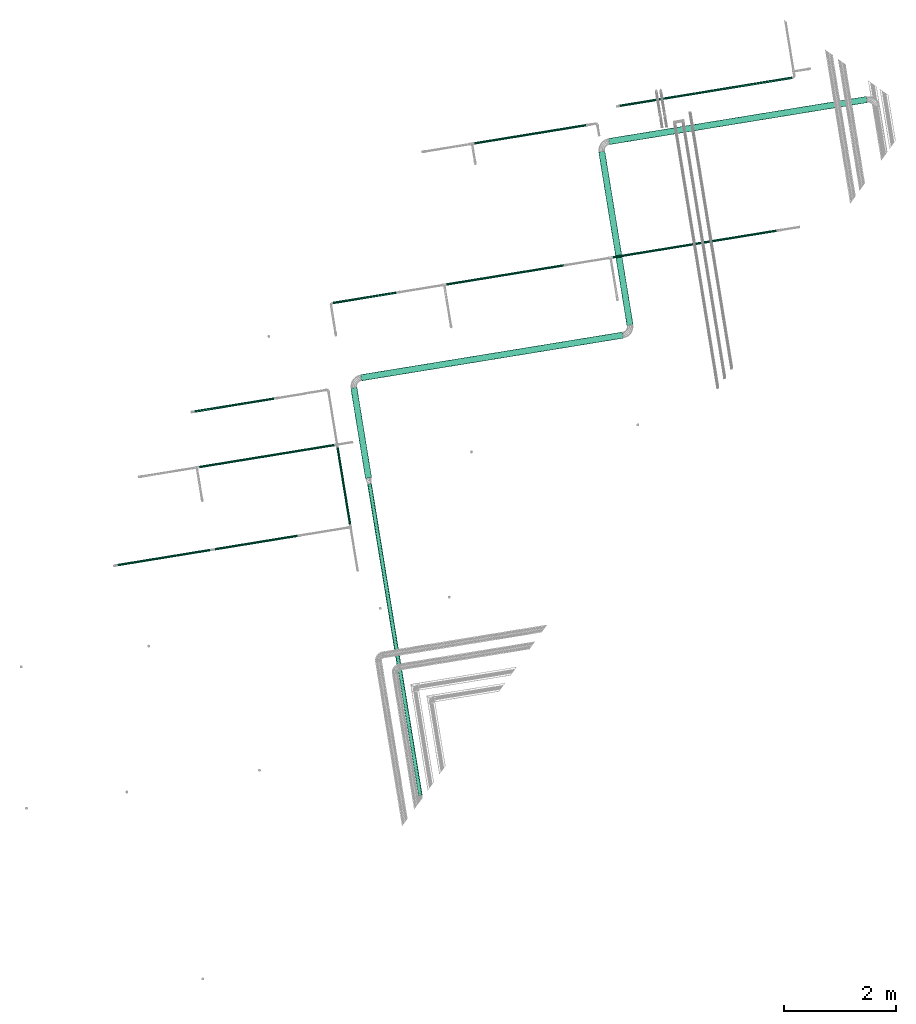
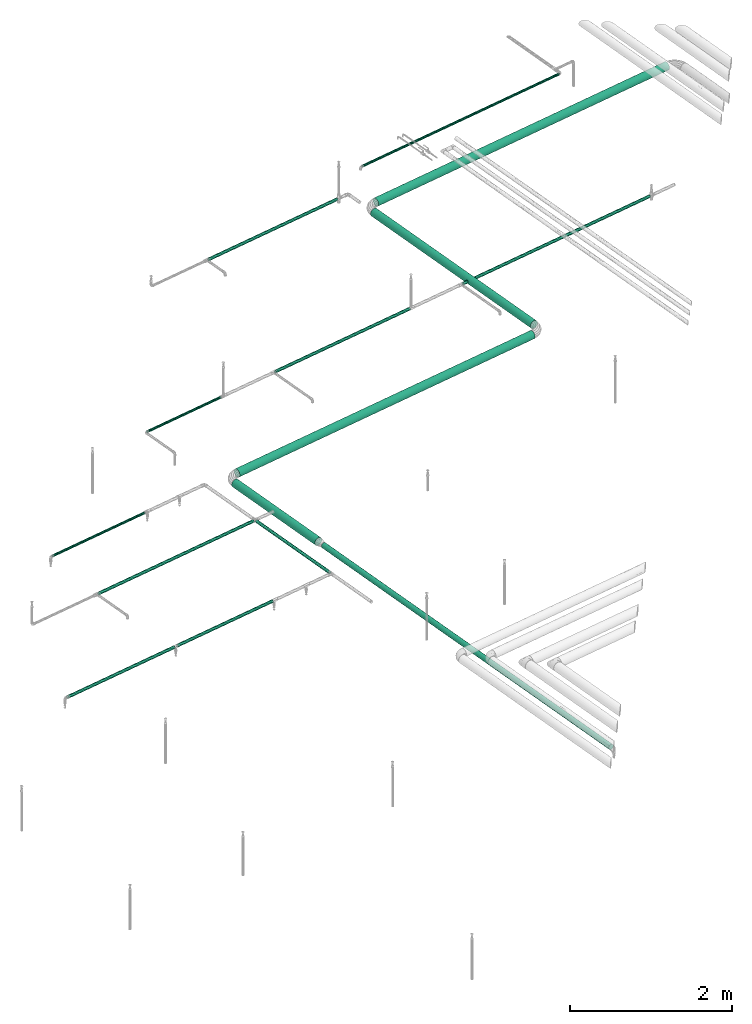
# One storey, part 17 of 46: 15 flow segments.
"""IFC2X3 building model written with IfcOpenShell, lengths in millimetres."""

import ifcopenshell
import ifcopenshell.guid

model = None  # the IFC model being written
_history = None  # IfcOwnerHistory: only IFC2X3 demands one
_inside = {}  # id of a spatial element -> (the spatial element, [elements in it])
_under = {}  # id of a project, library or spatial element -> (it, [spatial elements below it])
_declared = {}  # id of a project -> (the project, [libraries it declares])
_typed = {}  # id of a type object -> (the type object, [elements of that type])
_made_of = {}  # id of a material, layer set ... -> (it, [elements and type objects made of it])


def new_model(schema):
    """Start an empty IFC model of exactly this schema.

    Asked for "IFC4X3", IfcOpenShell would pick the latest addendum, in which some entities
    have other attributes; the version numbers below select the first issue.
    IFC2X3 requires an IfcOwnerHistory on every rooted entity: one is made here for all.
    """
    global model, _history
    if schema == "IFC4X3":
        model = ifcopenshell.file(schema_version=(4, 3, 0, 0))
    else:
        model = ifcopenshell.file(schema=schema)
    _inside.clear()
    _under.clear()
    _declared.clear()
    _typed.clear()
    _made_of.clear()
    _history = None
    if model.schema == "IFC2X3":
        org = make("IfcOrganization", Name="unknown")
        user = make(
            "IfcPersonAndOrganization",
            ThePerson=make("IfcPerson", FamilyName="unknown"),
            TheOrganization=org,
        )
        app = make(
            "IfcApplication",
            ApplicationDeveloper=org,
            Version="unknown",
            ApplicationFullName="unknown",
            ApplicationIdentifier="unknown",
        )
        _history = make(
            "IfcOwnerHistory",
            OwningUser=user,
            OwningApplication=app,
            ChangeAction="ADDED",
            CreationDate=0,
        )
    return model


def make(cls, **values):
    """One entity of the class cls with the attributes given. An attribute that is None is left unset."""
    return model.create_entity(
        cls, **{name: value for name, value in values.items() if value is not None}
    )


def entity(cls, *values):
    """Any entity or typed value of the class cls, its attributes in the order of the schema. None: left unset."""
    e = model.create_entity(cls)
    for i, value in enumerate(values):
        if value is not None:
            e[i] = value
    return e


def rooted(cls, **values):
    """An entity with a GlobalId (a new one), such as an element, a storey or a relation."""
    return make(cls, GlobalId=ifcopenshell.guid.new(), OwnerHistory=_history, **values)


def si_unit(unit_type, name, prefix=None):
    """IfcSIUnit, for example si_unit("LENGTHUNIT", "METRE", prefix="MILLI")."""
    return make("IfcSIUnit", UnitType=unit_type, Prefix=prefix, Name=name)


def converted_unit(unit_type, name, factor, base, dimensions=None, offset=None):
    """IfcConversionBasedUnit, such as the inch: factor (a typed value) times the base unit."""
    return make(
        "IfcConversionBasedUnit"
        if offset is None
        else "IfcConversionBasedUnitWithOffset",
        ConversionOffset=offset,
        Dimensions=None
        if dimensions is None
        else entity("IfcDimensionalExponents", *dimensions),
        UnitType=unit_type,
        Name=name,
        ConversionFactor=make(
            "IfcMeasureWithUnit", ValueComponent=factor, UnitComponent=base
        ),
    )


def derived_unit(unit_type, elements):
    """IfcDerivedUnit: a product of units, each with its exponent."""
    return make(
        "IfcDerivedUnit",
        Elements=[
            make("IfcDerivedUnitElement", Unit=unit, Exponent=power)
            for unit, power in elements
        ],
        UnitType=unit_type,
    )


def assignment(units):
    """IfcUnitAssignment: the units of a project."""
    return None if units is None else make("IfcUnitAssignment", Units=units)


def point(xyz):
    """IfcCartesianPoint."""
    return None if xyz is None else make("IfcCartesianPoint", Coordinates=xyz)


def direction(xyz):
    """IfcDirection."""
    return None if xyz is None else make("IfcDirection", DirectionRatios=xyz)


def frame(location, z_axis=None, x_axis=None):
    """IfcAxis2Placement3D, a coordinate frame: its origin and axes. An axis left out is left unset."""
    return make(
        "IfcAxis2Placement3D",
        Location=point(location),
        Axis=direction(z_axis),
        RefDirection=direction(x_axis),
    )


def frame_2d(location, x_axis=None):
    """IfcAxis2Placement2D, a coordinate frame in the plane: its origin and x axis."""
    return make(
        "IfcAxis2Placement2D", Location=point(location), RefDirection=direction(x_axis)
    )


def origin():
    """The frame at (0, 0, 0) with its axes left unset."""
    return frame((0.0, 0.0, 0.0))


def origin_with_axes():
    """The frame at (0, 0, 0) with the z axis (0, 0, 1) and the x axis (1, 0, 0) written out."""
    return frame((0.0, 0.0, 0.0), z_axis=(0.0, 0.0, 1.0), x_axis=(1.0, 0.0, 0.0))


def origin_2d_with_axis():
    """The frame at (0, 0) in the plane with the x axis (1, 0) written out."""
    return frame_2d((0.0, 0.0), x_axis=(1.0, 0.0))


def place(relative_to, where):
    """IfcLocalPlacement: puts the frame where relative to a parent placement (None: the world)."""
    return make(
        "IfcLocalPlacement", PlacementRelTo=relative_to, RelativePlacement=where
    )


def context(
    kind, dimensions, precision=None, world=None, true_north=None, identifier=None
):
    """IfcGeometricRepresentationContext, for example the 3D "Model" context."""
    return make(
        "IfcGeometricRepresentationContext",
        ContextIdentifier=identifier,
        ContextType=kind,
        CoordinateSpaceDimension=dimensions,
        Precision=precision,
        WorldCoordinateSystem=world,
        TrueNorth=true_north,
    )


def subcontext(parent, identifier, kind, view, scale=None):
    """IfcGeometricRepresentationSubContext, for example "Body" below "Model"."""
    return make(
        "IfcGeometricRepresentationSubContext",
        ContextIdentifier=identifier,
        ContextType=kind,
        ParentContext=parent,
        TargetScale=scale,
        TargetView=view,
    )


def project(units=None, contexts=None):
    """IfcProject with its units and contexts."""
    return rooted(
        "IfcProject",
        Name="project",
        RepresentationContexts=contexts,
        UnitsInContext=assignment(units),
    )


def spatial(cls, under=None, at=None, **own):
    """A site, building, storey or space (cls), placed at a placement, below another one or the project."""
    s = rooted(cls, ObjectPlacement=at, **own)
    if under is not None:
        _under.setdefault(under.id(), (under, []))[1].append(s)
    return s


def profile(cls, at=None, kind="AREA", **sizes):
    """A parametric profile (cls). Its sizes go by their IFC names, for example OverallWidth=200.0."""
    return make(cls, ProfileType=kind, Position=at, **sizes)


def circle(**sizes):
    """IfcCircleProfileDef."""
    return profile("IfcCircleProfileDef", **sizes)


def extrude(swept, where, along, depth):
    """IfcExtrudedAreaSolid: the profile swept, set in the frame where, extruded along a direction by depth."""
    return make(
        "IfcExtrudedAreaSolid",
        SweptArea=swept,
        Position=where,
        ExtrudedDirection=direction(along),
        Depth=depth,
    )


def shape(context_of_items, identifier, shape_type, items):
    """IfcShapeRepresentation: the items that make up one representation, for example the "Body"."""
    return make(
        "IfcShapeRepresentation",
        ContextOfItems=context_of_items,
        RepresentationIdentifier=identifier,
        RepresentationType=shape_type,
        Items=items,
    )


def material(Name=None, Category=None):
    """IfcMaterial."""
    return make("IfcMaterial", Name=Name, Category=Category)


def made_of(thing, what):
    """Note that an element or type object is made of a material, layer set ...; save() writes the relation."""
    if what is not None:
        _made_of.setdefault(what.id(), (what, []))[1].append(thing)
    return thing


def type_object(cls, material=None, **own):
    """A type object (cls), such as IfcWallType, which elements share."""
    return made_of(rooted(cls, **own), material)


def element(
    cls,
    number,
    at=None,
    inside=None,
    cuts=None,
    type_object=None,
    material=None,
    context=None,
    identifier="Body",
    shape_type=None,
    held_by="IfcProductDefinitionShape",
    body=None,
    shapes=None,
    **own,
):
    """One element of the class cls, such as IfcWall. Its Tag is "e" and its number.

    at: its placement. inside: the storey or other place that contains it. cuts: it is an
    opening in that element (IfcRelVoidsElement). A single representation is given by context,
    identifier, shape_type and body (its items); several are given by shapes. held_by: the class
    of the entity that holds the representations. save() writes the other relations.
    """
    e = rooted(cls, Tag="e%d" % number, ObjectPlacement=at, **own)
    if body is not None:
        shapes = [shape(context, identifier, shape_type, body)]
    if shapes is not None:
        e.Representation = make(held_by, Representations=shapes)
    if inside is not None:
        _inside.setdefault(inside.id(), (inside, []))[1].append(e)
    if cuts is not None:
        rooted(
            "IfcRelVoidsElement", RelatingBuildingElement=cuts, RelatedOpeningElement=e
        )
    if type_object is not None:
        _typed.setdefault(type_object.id(), (type_object, []))[1].append(e)
    return made_of(e, material)


def aggregate(whole, parts):
    """IfcRelAggregates: a whole, such as a stair, and the parts it consists of."""
    return rooted("IfcRelAggregates", RelatingObject=whole, RelatedObjects=parts)


def save(model, path):
    """Write the relations noted so far, then the file.

    IfcRelAggregates (storeys below a building ...), IfcRelContainedInSpatialStructure (elements
    in a storey), IfcRelDefinesByType, IfcRelAssociatesMaterial and IfcRelDeclares: one each for
    every whole, place, type object, material and project.
    """
    for whole, parts in _under.values():
        aggregate(whole, parts)
    for where, things in _inside.values():
        rooted(
            "IfcRelContainedInSpatialStructure",
            RelatedElements=things,
            RelatingStructure=where,
        )
    for kind, things in _typed.values():
        rooted("IfcRelDefinesByType", RelatedObjects=things, RelatingType=kind)
    for what, things in _made_of.values():
        rooted("IfcRelAssociatesMaterial", RelatedObjects=things, RelatingMaterial=what)
    for by, libraries in _declared.values():
        rooted("IfcRelDeclares", RelatingContext=by, RelatedDefinitions=libraries)
    model.write(path)


model = new_model("IFC2X3")

# Units and contexts
model_context = context("Model", 3, precision=0.01, world=origin(), true_north=direction((6.12323399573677e-17, 1.0)))
plan_context = context("Plan", 3, precision=1e-05, world=origin_with_axes())
body_context = subcontext(model_context, "Body", "Model", "MODEL_VIEW")
ifc_project = project(units=[converted_unit("PLANEANGLEUNIT", "DEGREE", entity("IfcPositiveLengthMeasure", 0.0174532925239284), si_unit("PLANEANGLEUNIT", "RADIAN"), dimensions=[0, 0, 0, 0, 0, 0, 0]), si_unit("AREAUNIT", "SQUARE_METRE"), si_unit("LENGTHUNIT", "METRE", prefix="MILLI"), si_unit("MASSUNIT", "GRAM", prefix="KILO"), si_unit("POWERUNIT", "WATT"), si_unit("PRESSUREUNIT", "PASCAL", prefix="KILO"), si_unit("FORCEUNIT", "NEWTON", prefix="KILO"), si_unit("ELECTRICVOLTAGEUNIT", "VOLT"), si_unit("ELECTRICCURRENTUNIT", "AMPERE"), si_unit("THERMODYNAMICTEMPERATUREUNIT", "DEGREE_CELSIUS"), si_unit("TIMEUNIT", "SECOND"), si_unit("VOLUMEUNIT", "CUBIC_METRE"), derived_unit("LINEARVELOCITYUNIT", [(si_unit("LENGTHUNIT", "METRE"), 1), (si_unit("TIMEUNIT", "SECOND"), -1)]), derived_unit("VOLUMETRICFLOWRATEUNIT", [(si_unit("VOLUMEUNIT", "CUBIC_METRE"), 1), (si_unit("TIMEUNIT", "SECOND"), -1)]), derived_unit("THERMALTRANSMITTANCEUNIT", [(si_unit("POWERUNIT", "WATT"), 1), (si_unit("THERMODYNAMICTEMPERATUREUNIT", "KELVIN"), -1), (si_unit("AREAUNIT", "SQUARE_METRE"), -1)]), derived_unit("SOUNDPRESSUREUNIT", [(si_unit("PRESSUREUNIT", "PASCAL"), 1)])], contexts=[model_context, plan_context])

# Site, building, storey
site_placement = place(None, frame((-3.09682673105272e-06, 1.93776733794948e-05, 0.0), z_axis=(0.0, 0.0, 1.0), x_axis=(-0.160806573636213, 0.986985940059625, 0.0)))
site = spatial("IfcSite", under=ifc_project, at=site_placement, Name="Default", CompositionType="ELEMENT")
building_placement = place(site_placement, frame((0.0, 0.0, 0.0), z_axis=(0.0, 0.0, 1.0), x_axis=(1.0, -2.77555756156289e-17, 0.0)))
building = spatial("IfcBuilding", under=site, at=building_placement, Name="Bygning (endres i Project Information)", CompositionType="ELEMENT")
storey_placement = place(building_placement, frame((0.0, 0.0, 51360.0000000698), z_axis=(0.0, 0.0, 1.0), x_axis=(1.0, -2.77555756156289e-17, 0.0)))
storey = spatial("IfcBuildingStorey", under=building, at=storey_placement, Name="H01-Nivå D+0,36", CompositionType="ELEMENT", Elevation=51360.0000000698)

# Flow segments
ifc_material = material(Name="3320.001")
pipe_segment_type = type_object("IfcPipeSegmentType", Name="Pipe Types:Stålrør sveist og gjenget", PredefinedType="NOTDEFINED", material=ifc_material)
flow_segment_1_placement = place(storey_placement, frame((0.0, 0.0, 0.0), z_axis=(0.0, 0.0, 1.0), x_axis=(1.0, -2.77555756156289e-17, 0.0)))
element("IfcFlowSegment", 1, at=flow_segment_1_placement, inside=storey, type_object=pipe_segment_type, Name="Pipe Types:Stålrør sveist og gjenget", ObjectType="Pipe Types:Stålrør sveist og gjenget", context=body_context, shape_type="SweptSolid", body=[
    extrude(circle(Radius=57.1500016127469, at=origin_2d_with_axis()), frame((1008333.45605167, -356932.211474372, 3299.95000040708), z_axis=(0.0, 1.0, 0.0), x_axis=(1.0, 0.0, 0.0)), (0.0, 0.0, 1.0), 4649.99999999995),
])
flow_segment_2_placement = place(storey_placement, frame((0.0, 0.0, 0.0), z_axis=(0.0, 0.0, 1.0), x_axis=(1.0, -2.77555756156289e-17, 0.0)))
element("IfcFlowSegment", 2, at=flow_segment_2_placement, inside=storey, type_object=pipe_segment_type, Name="Pipe Types:Stålrør sveist og gjenget", ObjectType="Pipe Types:Stålrør sveist og gjenget", context=body_context, shape_type="SweptSolid", body=[
    extrude(circle(Radius=57.1500016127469, at=origin_2d_with_axis()), frame((1005048.45605167, -352127.211474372, 3299.95000040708), z_axis=(1.0, 0.0, 0.0), x_axis=(0.0, 1.0, 0.0)), (0.0, 0.0, 1.0), 3130.00000000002),
])
flow_segment_3_placement = place(storey_placement, frame((0.0, 0.0, 0.0), z_axis=(0.0, 0.0, 1.0), x_axis=(1.0, -2.77555756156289e-17, 0.0)))
element("IfcFlowSegment", 3, at=flow_segment_3_placement, inside=storey, type_object=pipe_segment_type, Name="Pipe Types:Stålrør sveist og gjenget", ObjectType="Pipe Types:Stålrør sveist og gjenget", context=body_context, shape_type="SweptSolid", body=[
    extrude(circle(Radius=57.1500016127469, at=origin_2d_with_axis()), frame((1004893.45605167, -351972.211474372, 3299.95000040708), z_axis=(0.0, 1.0, 0.0), x_axis=(1.0, 0.0, 0.0)), (0.0, 0.0, 1.0), 4720.62745549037),
])
flow_segment_4_placement = place(storey_placement, frame((0.0, 0.0, 0.0), z_axis=(0.0, 0.0, 1.0), x_axis=(1.0, -2.77555756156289e-17, 0.0)))
element("IfcFlowSegment", 4, at=flow_segment_4_placement, inside=storey, type_object=pipe_segment_type, Name="Pipe Types:Stålrør sveist og gjenget", ObjectType="Pipe Types:Stålrør sveist og gjenget", context=body_context, shape_type="SweptSolid", body=[
    extrude(circle(Radius=57.1500016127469, at=origin_2d_with_axis()), frame((1003112.00225329, -347096.584018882, 3299.95000040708), z_axis=(1.0, 0.0, 0.0), x_axis=(0.0, 1.0, 0.0)), (0.0, 0.0, 1.0), 1626.45379838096),
])
flow_segment_5_placement = place(storey_placement, frame((0.0, 0.0, 0.0), z_axis=(0.0, 0.0, 1.0), x_axis=(1.0, -2.77555756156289e-17, 0.0)))
element("IfcFlowSegment", 5, at=flow_segment_5_placement, inside=storey, type_object=pipe_segment_type, Name="Pipe Types:Stålrør sveist og gjenget", ObjectType="Pipe Types:Stålrør sveist og gjenget", context=body_context, shape_type="SweptSolid", body=[
    extrude(circle(Radius=16.8500004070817, at=frame_2d((0.0, -8.66293703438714e-12), x_axis=(1.0, 0.0))), frame((1008930.46730193, -355704.297207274, 3400.0), z_axis=(0.0, 1.0, 0.0), x_axis=(1.0, 0.0, 0.0)), (0.0, 0.0, 1.0), 3153.28168063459),
])
flow_segment_6_placement = place(storey_placement, frame((0.0, 0.0, 0.0), z_axis=(0.0, 0.0, 1.0), x_axis=(1.0, -2.77555756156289e-17, 0.0)))
element("IfcFlowSegment", 6, at=flow_segment_6_placement, inside=storey, type_object=pipe_segment_type, Name="Pipe Types:Stålrør sveist og gjenget", ObjectType="Pipe Types:Stålrør sveist og gjenget", context=body_context, shape_type="SweptSolid", body=[
    extrude(circle(Radius=21.2000007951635, at=origin_2d_with_axis()), frame((1008686.77221849, -351949.031006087, 3300.00269175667), z_axis=(0.0, 1.0, 0.0), x_axis=(1.0, 0.0, 0.0)), (0.0, 0.0, 1.0), 2055.10344273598),
])
flow_segment_7_placement = place(storey_placement, frame((0.0, 0.0, 0.0), z_axis=(0.0, 0.0, 1.0), x_axis=(1.0, -2.77555756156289e-17, 0.0)))
element("IfcFlowSegment", 7, at=flow_segment_7_placement, inside=storey, type_object=pipe_segment_type, Name="Pipe Types:Stålrør sveist og gjenget", ObjectType="Pipe Types:Stålrør sveist og gjenget", context=body_context, shape_type="SweptSolid", body=[
    extrude(circle(Radius=21.2000007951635, at=frame_2d((1.38606992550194e-10, 8.6629370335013e-12), x_axis=(1.0, 0.0))), frame((1006288.36764383, -354987.729195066, 3300.0), z_axis=(0.0, 1.0, -1.43007768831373e-05), x_axis=(1.0, 0.0, 0.0)), (0.0, 0.0, 1.0), 2986.49818928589),
])
flow_segment_8_placement = place(storey_placement, frame((0.0, 0.0, 0.0), z_axis=(0.0, 0.0, 1.0), x_axis=(1.0, -2.77555756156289e-17, 0.0)))
element("IfcFlowSegment", 8, at=flow_segment_8_placement, inside=storey, type_object=pipe_segment_type, Name="Pipe Types:Stålrør sveist og gjenget", ObjectType="Pipe Types:Stålrør sveist og gjenget", context=body_context, shape_type="SweptSolid", body=[
    extrude(circle(Radius=16.8500004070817, at=origin_2d_with_axis()), frame((1006288.36764382, -348132.443486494, 3299.95076263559), z_axis=(0.0, 1.0, 0.0), x_axis=(1.0, 0.0, 0.0)), (0.0, 0.0, 1.0), 1179.84804885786),
])
flow_segment_9_placement = place(storey_placement, frame((0.0, 0.0, 0.0), z_axis=(0.0, 0.0, 1.0), x_axis=(1.0, -2.77555756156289e-17, 0.0)))
element("IfcFlowSegment", 9, at=flow_segment_9_placement, inside=storey, type_object=pipe_segment_type, Name="Pipe Types:Stålrør sveist og gjenget", ObjectType="Pipe Types:Stålrør sveist og gjenget", context=body_context, shape_type="SweptSolid", body=[
    extrude(circle(Radius=21.2000007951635, at=origin_2d_with_axis()), frame((1006288.36764382, -351151.110240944, 3299.95459111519), z_axis=(0.0, 1.0, 0.0), x_axis=(1.0, 0.0, 0.0)), (0.0, 0.0, 1.0), 2149.87923485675),
])
flow_segment_10_placement = place(storey_placement, frame((0.0, 0.0, 0.0), z_axis=(0.0, 0.0, 1.0), x_axis=(1.0, -2.77555756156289e-17, 0.0)))
element("IfcFlowSegment", 10, at=flow_segment_10_placement, inside=storey, type_object=pipe_segment_type, Name="Pipe Types:Stålrør sveist og gjenget", ObjectType="Pipe Types:Stålrør sveist og gjenget", context=body_context, shape_type="SweptSolid", body=[
    extrude(circle(Radius=21.2000007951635, at=origin_2d_with_axis()), frame((1002299.88520526, -344129.432953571, 3458.7975447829), z_axis=(0.0, 1.0, 0.0), x_axis=(-1.0, 0.0, 0.0)), (0.0, 0.0, 1.0), 1705.80336909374),
])
flow_segment_11_placement = place(storey_placement, frame((0.0, 0.0, 0.0), z_axis=(0.0, 0.0, 1.0), x_axis=(1.0, -2.77555756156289e-17, 0.0)))
element("IfcFlowSegment", 11, at=flow_segment_11_placement, inside=storey, type_object=pipe_segment_type, Name="Pipe Types:Stålrør sveist og gjenget", ObjectType="Pipe Types:Stålrør sveist og gjenget", context=body_context, shape_type="SweptSolid", body=[
    extrude(circle(Radius=21.2000007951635, at=origin_2d_with_axis()), frame((1002299.88520526, -345701.975122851, 3458.8000262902), z_axis=(0.0, 1.0, 0.0), x_axis=(-1.0, 0.0, 0.0)), (0.0, 0.0, 1.0), 1527.34216928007),
])
flow_segment_12_placement = place(storey_placement, frame((0.0, 0.0, 0.0), z_axis=(0.0, 0.0, 1.0), x_axis=(1.0, -2.77555756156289e-17, 0.0)))
element("IfcFlowSegment", 12, at=flow_segment_12_placement, inside=storey, type_object=pipe_segment_type, Name="Pipe Types:Stålrør sveist og gjenget", ObjectType="Pipe Types:Stålrør sveist og gjenget", context=body_context, shape_type="SweptSolid", body=[
    extrude(circle(Radius=16.8500004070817, at=frame_2d((0.0, -8.66293703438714e-12), x_axis=(1.0, 0.0))), frame((1004777.14983251, -345683.308456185, 3458.79999529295), z_axis=(0.0, 1.0, 0.0), x_axis=(-1.0, 0.0, 0.0)), (0.0, 0.0, 1.0), 1481.34258337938),
])
flow_segment_13_placement = place(storey_placement, frame((0.0, 0.0, 0.0), z_axis=(0.0, 0.0, 1.0), x_axis=(1.0, -2.77555756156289e-17, 0.0)))
element("IfcFlowSegment", 13, at=flow_segment_13_placement, inside=storey, type_object=pipe_segment_type, Name="Pipe Types:Stålrør sveist og gjenget", ObjectType="Pipe Types:Stålrør sveist og gjenget", context=body_context, shape_type="SweptSolid", body=[
    extrude(circle(Radius=21.2000007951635, at=origin_2d_with_axis()), frame((1002329.48520526, -346638.795665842, 3458.79999913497), z_axis=(1.0, 0.0, 0.0), x_axis=(0.0, -1.0, 0.0)), (0.0, 0.0, 1.0), 1429.28243857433),
])
flow_segment_14_placement = place(storey_placement, frame((0.0, 0.0, 0.0), z_axis=(0.0, 0.0, 1.0), x_axis=(1.0, -2.77555756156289e-17, 0.0)))
element("IfcFlowSegment", 14, at=flow_segment_14_placement, inside=storey, type_object=pipe_segment_type, Name="Pipe Types:Stålrør sveist og gjenget", ObjectType="Pipe Types:Stålrør sveist og gjenget", context=body_context, shape_type="SweptSolid", body=[
    extrude(circle(Radius=21.2000007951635, at=origin_2d_with_axis()), frame((1003788.36764383, -346609.195665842, 3458.79999913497), z_axis=(0.0, 1.0, 0.0), x_axis=(1.0, 0.0, 0.0)), (0.0, 0.0, 1.0), 2477.18576710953),
])
flow_segment_15_placement = place(storey_placement, frame((0.0, 0.0, 0.0), z_axis=(0.0, 0.0, 1.0), x_axis=(1.0, -2.77555756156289e-17, 0.0)))
element("IfcFlowSegment", 15, at=flow_segment_15_placement, inside=storey, type_object=pipe_segment_type, Name="Pipe Types:Stålrør sveist og gjenget", ObjectType="Pipe Types:Stålrør sveist og gjenget", context=body_context, shape_type="SweptSolid", body=[
    extrude(circle(Radius=38.0499992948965, at=origin_2d_with_axis()), frame((997384.867643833, -347096.584018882, 3299.95000040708), z_axis=(1.0, 0.0, 0.0), x_axis=(0.0, 1.0, 0.0)), (0.0, 0.0, 1.0), 5623.13460945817),
])

save(model, "model.ifc")
